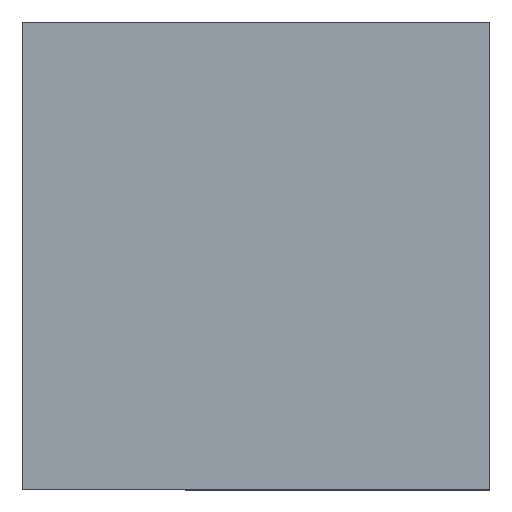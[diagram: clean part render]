
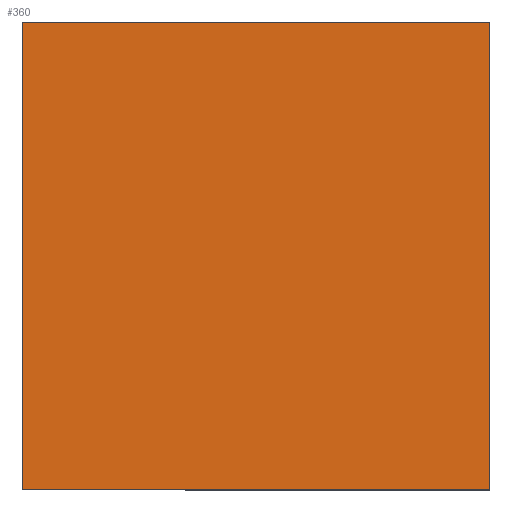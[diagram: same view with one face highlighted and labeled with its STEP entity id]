
A CAD part, top view. The second image highlights one B-rep face of the part: STEP entity #360.
In plain terms, the highlighted planar face has unit normal (0, 0, 1).
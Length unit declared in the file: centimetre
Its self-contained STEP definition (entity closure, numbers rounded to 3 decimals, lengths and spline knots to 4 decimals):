
#4 = LINE ( 'NONE', #126, #121 ) ;
#14 = LINE ( 'NONE', #136, #291 ) ;
#23 = EDGE_CURVE ( 'NONE', #212, #343, #4, .T. ) ;
#24 = LINE ( 'NONE', #187, #53 ) ;
#34 = ORIENTED_EDGE ( 'NONE', *, *, #334, .T. ) ;
#36 = CARTESIAN_POINT ( 'NONE',  ( 0., 1000., 1000. ) ) ;
#45 = CARTESIAN_POINT ( 'NONE',  ( 0., 0., 1000. ) ) ;
#48 = EDGE_CURVE ( 'NONE', #307, #383, #14, .T. ) ;
#53 = VECTOR ( 'NONE', #377, 100. ) ;
#56 = DIRECTION ( 'NONE',  ( 1., 0., 0. ) ) ;
#88 = ORIENTED_EDGE ( 'NONE', *, *, #404, .T. ) ;
#94 = DIRECTION ( 'NONE',  ( 0., 0., 1. ) ) ;
#121 = VECTOR ( 'NONE', #252, 100. ) ;
#124 = EDGE_LOOP ( 'NONE', ( #165, #34, #348, #88 ) ) ;
#125 = DIRECTION ( 'NONE',  ( 1., 0., 0. ) ) ;
#126 = CARTESIAN_POINT ( 'NONE',  ( 1000., 1000., 1000. ) ) ;
#136 = CARTESIAN_POINT ( 'NONE',  ( 0., 1000., 1000. ) ) ;
#145 = AXIS2_PLACEMENT_3D ( 'NONE', #317, #94, #56 ) ;
#165 = ORIENTED_EDGE ( 'NONE', *, *, #48, .T. ) ;
#187 = CARTESIAN_POINT ( 'NONE',  ( 0., 1000., 1000. ) ) ;
#212 = VERTEX_POINT ( 'NONE', #235 ) ;
#228 = FACE_OUTER_BOUND ( 'NONE', #124, .T. ) ;
#235 = CARTESIAN_POINT ( 'NONE',  ( 1000., 0., 1000. ) ) ;
#252 = DIRECTION ( 'NONE',  ( 0., 1., 0. ) ) ;
#253 = CARTESIAN_POINT ( 'NONE',  ( 1000., 1000., 1000. ) ) ;
#291 = VECTOR ( 'NONE', #296, 100. ) ;
#296 = DIRECTION ( 'NONE',  ( 0., -1., 0. ) ) ;
#307 = VERTEX_POINT ( 'NONE', #36 ) ;
#317 = CARTESIAN_POINT ( 'NONE',  ( 0., 0., 1000. ) ) ;
#320 = CARTESIAN_POINT ( 'NONE',  ( 0., 0., 1000. ) ) ;
#324 = VECTOR ( 'NONE', #125, 100. ) ;
#334 = EDGE_CURVE ( 'NONE', #383, #212, #385, .T. ) ;
#343 = VERTEX_POINT ( 'NONE', #253 ) ;
#348 = ORIENTED_EDGE ( 'NONE', *, *, #23, .T. ) ;
#360 = ADVANCED_FACE ( 'NONE', ( #228 ), #381, .T. ) ;
#377 = DIRECTION ( 'NONE',  ( -1., 0., 0. ) ) ;
#381 = PLANE ( 'NONE',  #145 ) ;
#383 = VERTEX_POINT ( 'NONE', #45 ) ;
#385 = LINE ( 'NONE', #320, #324 ) ;
#404 = EDGE_CURVE ( 'NONE', #343, #307, #24, .T. ) ;
